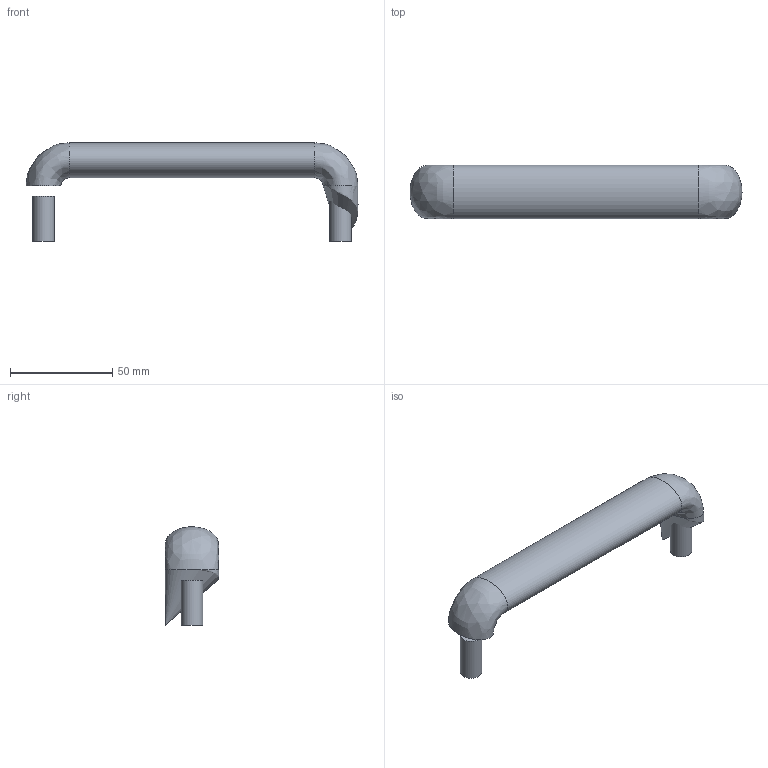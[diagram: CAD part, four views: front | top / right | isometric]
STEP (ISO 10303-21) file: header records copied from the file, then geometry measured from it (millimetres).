
FILE_DESCRIPTION( ('This file contains a STEP AP42 implementation' ,'as created by ZW3D STEP Interface translator.') ,'2;1' );
FILE_NAME( 'U.50_170.stp' ,'26 423.10 132', (''), ('ZWCAD Software Co.'), 'Version 1.0', 'ZW3D to STEP translator', '' );
FILE_SCHEMA(('AP242_MANAGED_MODEL_BASED_3D_ENGINEERING_MIM_LF { 1 0 10303 442 1 1 4 }'));
Length unit declared in the file: millimetre
Products named in the file (1): 0
Bounding box: 162 x 26 x 48 mm (x, y, z)
Volume: 67142.3 mm3; surface area: 17105 mm2
Topology: 5 solids, 5 shells, 25 faces, 38 edges, 23 vertices
Faces by surface type: plane 8, cylinder 8, bspline 5, cone 4
Full cylindrical faces by diameter (mm): 6.8 x4, 10.5 x4
Entity records: 711 total; most frequent: CARTESIAN_POINT 224, DIRECTION 97, ORIENTED_EDGE 78, AXIS2_PLACEMENT_3D 41, EDGE_CURVE 39, EDGE_LOOP 29, FACE_OUTER_BOUND 25, ADVANCED_FACE 25
